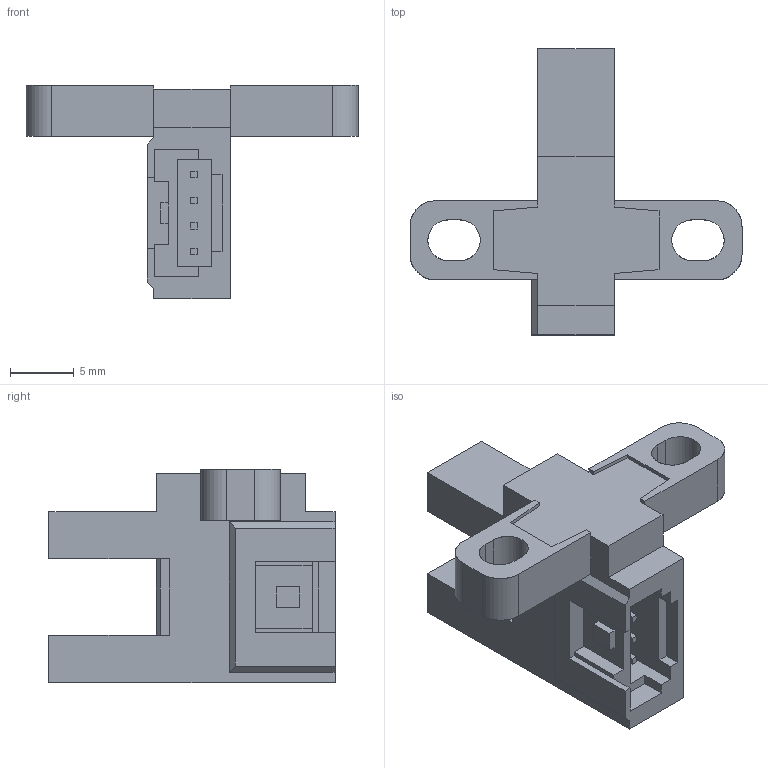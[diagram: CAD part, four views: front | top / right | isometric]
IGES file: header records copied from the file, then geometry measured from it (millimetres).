
Start section: SolidWorks IGES file using analytic representation for surfaces
Global section: file name: C:\catalog\pm-t65w.IGS; native system: SolidWorks 2010; preprocessor: SolidWorks 2010; author: C0278; date: 150807.171901; units: millimetre
Bounding box: 26 x 22.4 x 16.7 mm (x, y, z)
Surface area: 1767.8 mm2 (no closed solid volume)
Topology: 0 solids, 0 shells, 133 faces, 892 edges, 892 vertices
Faces by surface type: bspline 123, revolution 10
